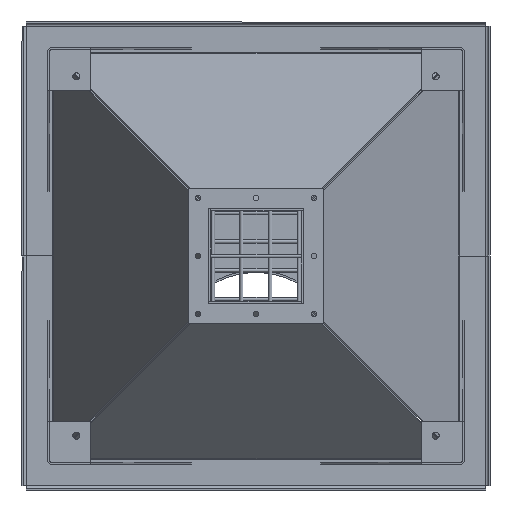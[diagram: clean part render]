
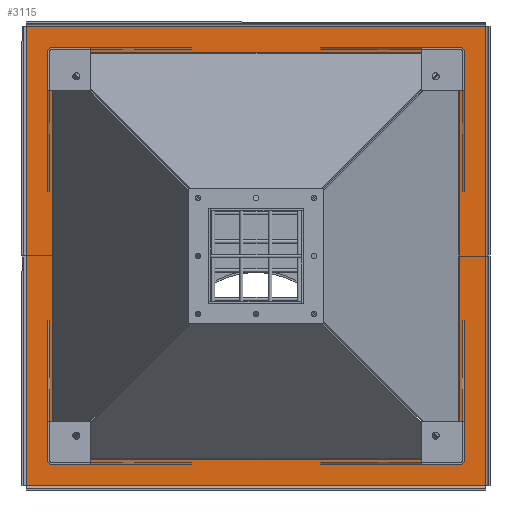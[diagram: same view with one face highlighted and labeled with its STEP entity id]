
A CAD part, front view. The second image highlights one B-rep face of the part: STEP entity #3115.
In plain terms, the highlighted planar face has unit normal (0, -1, 0).
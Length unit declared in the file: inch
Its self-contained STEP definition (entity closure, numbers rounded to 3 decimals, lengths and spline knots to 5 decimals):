
#343=FACE_BOUND('',#697,.T.);
#391=PLANE('',#3620);
#522=FACE_OUTER_BOUND('',#696,.T.);
#696=EDGE_LOOP('',(#2346,#2347,#2348,#2349));
#697=EDGE_LOOP('',(#2350,#2351,#2352,#2353));
#911=LINE('',#5039,#1223);
#914=LINE('',#5045,#1226);
#917=LINE('',#5051,#1229);
#920=LINE('',#5056,#1232);
#922=LINE('',#5061,#1234);
#923=LINE('',#5063,#1235);
#924=LINE('',#5065,#1236);
#925=LINE('',#5066,#1237);
#1223=VECTOR('',#4032,0.3937);
#1226=VECTOR('',#4037,0.3937);
#1229=VECTOR('',#4042,0.3937);
#1232=VECTOR('',#4047,0.3937);
#1234=VECTOR('',#4051,0.3937);
#1235=VECTOR('',#4052,0.3937);
#1236=VECTOR('',#4053,0.3937);
#1237=VECTOR('',#4054,0.3937);
#1619=VERTEX_POINT('',#5036);
#1620=VERTEX_POINT('',#5038);
#1622=VERTEX_POINT('',#5044);
#1624=VERTEX_POINT('',#5050);
#1626=VERTEX_POINT('',#5059);
#1627=VERTEX_POINT('',#5060);
#1628=VERTEX_POINT('',#5062);
#1629=VERTEX_POINT('',#5064);
#1887=EDGE_CURVE('',#1620,#1619,#911,.T.);
#1890=EDGE_CURVE('',#1622,#1620,#914,.T.);
#1893=EDGE_CURVE('',#1624,#1622,#917,.T.);
#1896=EDGE_CURVE('',#1619,#1624,#920,.T.);
#1898=EDGE_CURVE('',#1626,#1627,#922,.T.);
#1899=EDGE_CURVE('',#1627,#1628,#923,.T.);
#1900=EDGE_CURVE('',#1628,#1629,#924,.T.);
#1901=EDGE_CURVE('',#1629,#1626,#925,.T.);
#2346=ORIENTED_EDGE('',*,*,#1898,.T.);
#2347=ORIENTED_EDGE('',*,*,#1899,.T.);
#2348=ORIENTED_EDGE('',*,*,#1900,.T.);
#2349=ORIENTED_EDGE('',*,*,#1901,.T.);
#2350=ORIENTED_EDGE('',*,*,#1887,.T.);
#2351=ORIENTED_EDGE('',*,*,#1896,.T.);
#2352=ORIENTED_EDGE('',*,*,#1893,.T.);
#2353=ORIENTED_EDGE('',*,*,#1890,.T.);
#3115=ADVANCED_FACE('',(#522,#343),#391,.T.);
#3620=AXIS2_PLACEMENT_3D('',#5058,#4049,#4050);
#4032=DIRECTION('',(0.,0.,-1.));
#4037=DIRECTION('',(1.,0.,0.));
#4042=DIRECTION('',(0.,0.,1.));
#4047=DIRECTION('',(-1.,0.,0.));
#4049=DIRECTION('center_axis',(0.,-1.,0.));
#4050=DIRECTION('ref_axis',(0.,0.,-1.));
#4051=DIRECTION('',(1.,0.,0.));
#4052=DIRECTION('',(0.,0.,1.));
#4053=DIRECTION('',(-1.,0.,0.));
#4054=DIRECTION('',(0.,0.,-1.));
#5036=CARTESIAN_POINT('',(14.1345,-0.06725,-14.1345));
#5038=CARTESIAN_POINT('',(14.1345,-0.06725,14.1345));
#5039=CARTESIAN_POINT('',(14.1345,-0.06725,7.06725));
#5044=CARTESIAN_POINT('',(-14.1345,-0.06725,14.1345));
#5045=CARTESIAN_POINT('',(-7.06725,-0.06725,14.1345));
#5050=CARTESIAN_POINT('',(-14.1345,-0.06725,-14.1345));
#5051=CARTESIAN_POINT('',(-14.1345,-0.06725,-7.06725));
#5056=CARTESIAN_POINT('',(7.06725,-0.06725,-14.1345));
#5058=CARTESIAN_POINT('Origin',(0.,-0.06725,0.));
#5059=CARTESIAN_POINT('',(-16.,-0.06725,-16.));
#5060=CARTESIAN_POINT('',(16.,-0.06725,-16.));
#5061=CARTESIAN_POINT('',(-16.,-0.06725,-16.));
#5062=CARTESIAN_POINT('',(16.,-0.06725,16.));
#5063=CARTESIAN_POINT('',(16.,-0.06725,-16.));
#5064=CARTESIAN_POINT('',(-16.,-0.06725,16.));
#5065=CARTESIAN_POINT('',(16.,-0.06725,16.));
#5066=CARTESIAN_POINT('',(-16.,-0.06725,16.));
